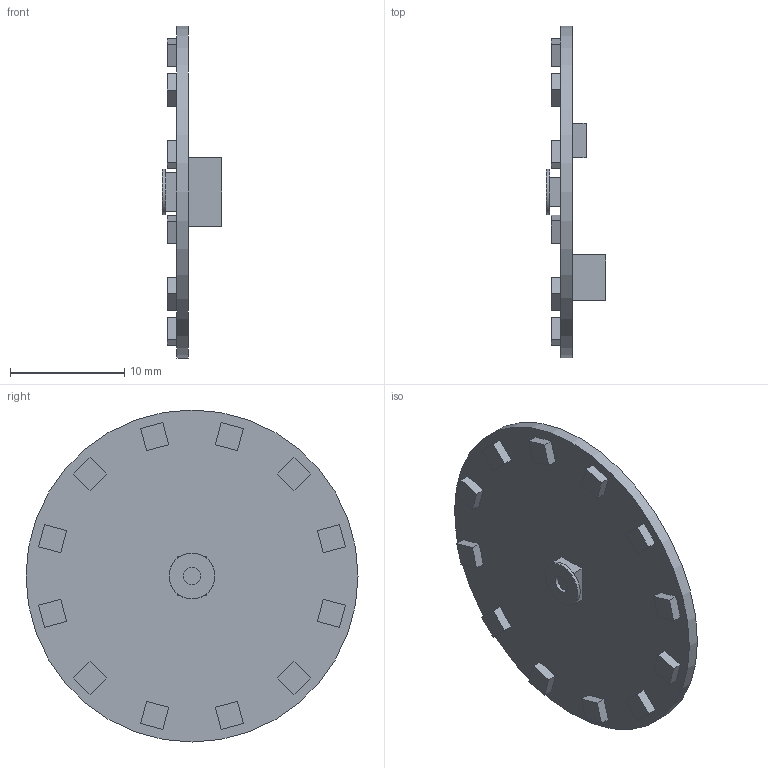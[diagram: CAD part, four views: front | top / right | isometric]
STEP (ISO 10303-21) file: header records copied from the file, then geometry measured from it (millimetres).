
FILE_DESCRIPTION(('Open CASCADE Model'),'2;1');
FILE_NAME('Open CASCADE Shape Model','2026-11-01T16:33:55',('Author'),( 'Open CASCADE'),'Open CASCADE STEP processor 8.0','build123d', 'Unknown');
FILE_SCHEMA(('AUTOMOTIVE_DESIGN { 1 0 10303 214 1 1 1 1 }'));
Length unit declared in the file: millimetre
Products named in the file (1): COMPOUND
Bounding box: 5.17 x 29 x 29 mm (x, y, z)
Volume: 796.3 mm3; surface area: 1592.6 mm2
Topology: 1 solids, 1 shells, 89 faces, 205 edges, 134 vertices
Faces by surface type: plane 86, cylinder 3
Full cylindrical faces by diameter (mm): 1.5 x1, 4 x1, 29 x1
Entity records: 5186 total; most frequent: CARTESIAN_POINT 923, DIRECTION 795, LINE 587, VECTOR 587, ORIENTED_EDGE 410, PCURVE 410, DEFINITIONAL_REPRESENTATION 410, EDGE_CURVE 205
